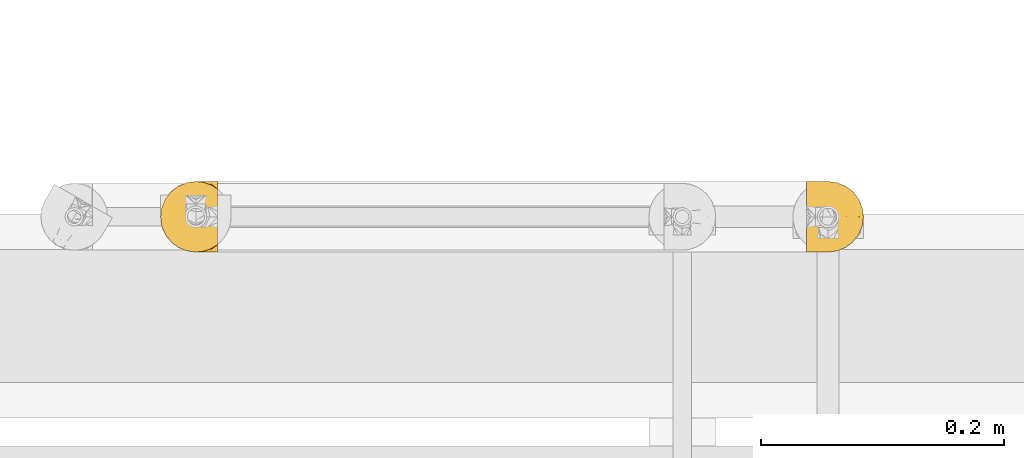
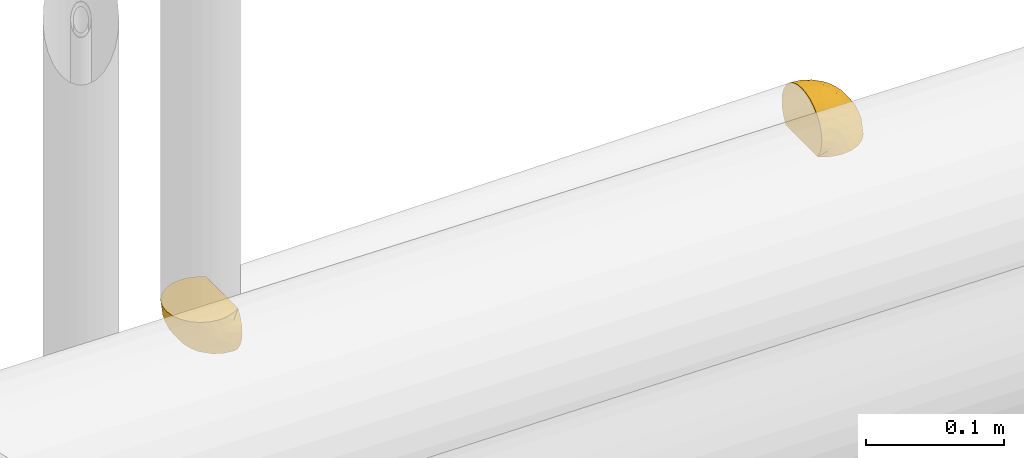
# One storey, part 15 of 78: 2 coverings.
"""IFC2X3 building model written with IfcOpenShell, lengths in millimetres."""

from ifc_helpers import new_model, entity, si_unit, converted_unit, derived_unit, direction, frame, origin_with_axes, place, context, subcontext, project, spatial, open_shell, surface_model, source, transform, mapped, element, save


model = new_model("IFC2X3")

# Units and contexts
model_context = context("Model", 3, precision=0.01, world=frame((0.0, 4.29681676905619e-09, 0.0)), true_north=direction((4.01073788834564e-13, 1.0)))
plan_context = context("Plan", 3, precision=0.01, world=frame((0.0, 4.29681676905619e-09, 0.0)), true_north=direction((4.01073788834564e-13, 1.0)))
body_context = subcontext(model_context, "Body", "Model", "MODEL_VIEW")
ifc_project = project(units=[converted_unit("PLANEANGLEUNIT", "DEGREE", entity("IfcPositiveLengthMeasure", 0.0174532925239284), si_unit("PLANEANGLEUNIT", "RADIAN"), dimensions=[0, 0, 0, 0, 0, 0, 0]), si_unit("AREAUNIT", "SQUARE_METRE"), si_unit("LENGTHUNIT", "METRE", prefix="MILLI"), si_unit("MASSUNIT", "GRAM", prefix="KILO"), si_unit("POWERUNIT", "WATT"), si_unit("PRESSUREUNIT", "PASCAL"), si_unit("FORCEUNIT", "NEWTON", prefix="KILO"), si_unit("ELECTRICVOLTAGEUNIT", "VOLT"), si_unit("ELECTRICCURRENTUNIT", "AMPERE"), si_unit("THERMODYNAMICTEMPERATUREUNIT", "DEGREE_CELSIUS"), si_unit("TIMEUNIT", "SECOND"), si_unit("VOLUMEUNIT", "CUBIC_METRE"), derived_unit("LINEARVELOCITYUNIT", [(si_unit("LENGTHUNIT", "METRE"), 1), (si_unit("TIMEUNIT", "SECOND"), -1)]), derived_unit("VOLUMETRICFLOWRATEUNIT", [(si_unit("VOLUMEUNIT", "CUBIC_METRE"), 1), (si_unit("TIMEUNIT", "SECOND"), -1)]), derived_unit("THERMALTRANSMITTANCEUNIT", [(si_unit("POWERUNIT", "WATT"), 1), (si_unit("THERMODYNAMICTEMPERATUREUNIT", "KELVIN"), -1), (si_unit("AREAUNIT", "SQUARE_METRE"), -1)]), derived_unit("SOUNDPRESSUREUNIT", [(si_unit("PRESSUREUNIT", "PASCAL"), 1)])], contexts=[model_context, plan_context])

# Site, building, storey
site_placement = place(None, frame((0.0, -4.29681676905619e-09, 0.0), z_axis=(0.0, 0.0, 1.0), x_axis=(1.0, 0.0, 0.0)))
site = spatial("IfcSite", under=ifc_project, at=site_placement, Name="ENGM", CompositionType="ELEMENT")
building_placement = place(site_placement, frame((0.0, 4.29681676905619e-09, 0.0), z_axis=(0.0, 0.0, 1.0), x_axis=(1.0, 0.0, 0.0)))
building = spatial("IfcBuilding", under=site, at=building_placement, Name="TH", CompositionType="ELEMENT")
storey_placement = place(building_placement, frame((0.0, 0.0, 205200.0), z_axis=(0.0, 0.0, 1.0), x_axis=(1.0, 0.0, 0.0)))
storey = spatial("IfcBuildingStorey", under=building, at=storey_placement, Name="Nivå D + 1,2 m", CompositionType="ELEMENT", Elevation=205200.0)

# Coverings
shared_shape_1 = source(origin_with_axes(), body_context, "Body", "SurfaceModel", [
    surface_model("IfcShellBasedSurfaceModel", [(12.5872, 18.0, 26.12589), (18.08563, 18.0, 22.66959), (22.67648, 18.0, 18.07698), (26.13012, 18.0, 12.57843), (28.27375, 18.0, 6.44942), (-17.77173, 18.0, -22.9165), (-12.3529, 18.0, -26.23749), (-6.33004, 18.0, -28.30072), (0.0, 18.0, -29.0), (6.44942, 18.0, -28.27375), (-18.0, 0.0, 29.0), (-18.0, -14.5, 25.11474), (-18.0, -7.50575, 28.01185), (-18.0, -25.11474, -14.5), (-18.0, -14.5, -25.11474), (-18.0, -20.5061, -20.5061), (-18.0, -7.50575, -28.01185), (-18.0, 0.0, -29.0), (-18.0, 17.77173, -22.9165), (-18.0, 17.77173, 22.9165), (-17.83859, 17.83859, 22.9165), (-17.83859, 17.83859, -22.9165), (-17.77173, 18.0, 22.9165), (-11.91423, 11.9123, -27.437), (-18.0, 6.32509, -28.30182), (-18.0, 12.34563, -26.24091), (-5.27208, 5.27208, -29.0), (-15.63786, 14.48961, -25.5229), (25.93601, 6.67854, -9.58205), (28.27217, 18.0, -6.45633), (27.02342, 8.06308, 0.0), (-11.58944, -10.38288, -26.79251), (26.12589, 18.0, -12.5872), (-8.72435, -16.42638, -23.00725), (-2.15074, -19.82057, -17.65408), (-10.78654, -22.36781, -17.65408), (-10.90925, -4.53647, -28.44912), (-4.56412, -7.81008, -26.79251), (1.42942, -22.15165, -11.53878), (4.08186, -22.64535, -6.52508), (-4.04847, -26.34204, -5.44064), (-18.0, -28.01185, -7.50575), (-6.34693, -25.25014, -11.09782), (12.57843, 18.0, -26.13012), (8.70204, 11.12014, -27.37401), (12.30526, -12.14334, -15.12435), (15.68692, -5.11925, -17.84797), (18.58838, -6.20359, -13.10629), (-1.45635, 14.48406, -29.0), (20.49628, -7.02537, -7.85654), (-14.48406, 1.45635, -29.0), (17.63513, 1.45693, -19.69333), (20.97621, 0.92546, -15.43347), (14.81555, 11.64794, -24.55768), (19.28448, 8.39344, -20.51001), (12.61582, 4.58807, -24.55768), (4.16849, 4.09476, -27.82577), (3.89702, -4.58536, -25.68841), (-2.23671, -1.20763, -28.17991), (18.07698, 18.0, -22.67648), (0.57021, -13.0879, -22.56817), (9.4476, -9.00088, -20.51001), (22.66959, 18.0, -18.08563), (23.77672, 9.91353, -15.43347), (25.42234, 0.01388, 0.0), (15.09054, -13.36351, -8.92567), (-8.45406, 3.95406, -29.0), (-6.64688, -2.8871, -28.41954), (-11.63604, 2.63604, -29.0), (-2.9127, 10.96811, -29.0), (15.23402, -15.23402, 0.0), (20.32818, -7.61007, 0.0), (8.70429, -18.28971, -10.43847), (11.53611, -17.98985, -5.04364), (5.36399, -15.33486, -18.03817), (-8.06308, -27.02342, 0.0), (8.1898, 0.02909, -25.52631), (12.51117, -2.09819, -22.30296), (-4.09239, 8.1201, -29.0), (29.0, 18.0, 0.0), (-0.01388, -25.42234, 0.0), (-18.0, -29.0, 0.0), (7.61007, -20.32818, 0.0), (-2.15312, -19.82156, 17.65408), (0.57215, -13.08608, 22.56863), (-8.72508, -16.42658, 23.00725), (-4.04847, -26.34203, 5.4407), (-10.78795, -22.36806, 17.65408), (-6.34785, -25.25039, 11.09782), (25.939, 6.67899, 9.57411), (-18.0, -25.11474, 14.5), (-18.0, -28.01185, 7.50575), (1.43206, -22.14749, 11.54476), (-11.58944, -10.38288, 26.79251), (20.50587, -7.01305, 7.85179), (20.98134, 0.92337, 15.42467), (4.16859, 4.08516, 27.82424), (8.70955, 11.11747, 27.37123), (-2.9127, 10.96811, 29.0), (6.45633, 18.0, 28.27217), (8.71076, -18.28571, 10.43687), (11.53628, -17.99007, 5.04207), (15.09914, -13.35631, 8.92169), (-18.0, -20.5061, 20.5061), (12.51139, -2.10414, 22.30009), (8.20363, 0.03075, 25.52066), (3.90743, -4.56802, 25.69113), (-2.23663, -1.20773, 28.17988), (-6.92531, -2.24067, 28.55295), (-4.56412, -7.81008, 26.79251), (15.69231, -5.11628, 17.84442), (9.45318, -9.00636, 20.50219), (12.31497, -12.1393, 15.11775), (23.78211, 9.91229, 15.42467), (19.29205, 8.39148, 20.50219), (14.82422, 11.64641, 24.55215), (12.62384, 4.58443, 24.55215), (17.64599, 1.45836, 19.68333), (-11.63604, 2.63604, 29.0), (-14.48406, 1.45635, 29.0), (-10.90925, -4.53647, 28.44912), (5.3697, -15.3417, 18.027), (-1.45635, 14.48406, 29.0), (4.08207, -22.64476, 6.52689), (-5.27208, 5.27208, 29.0), (-4.09239, 8.1201, 29.0), (-8.45406, 3.95406, 29.0), (18.10711, -6.95019, 13.06771), (0.0, 18.0, 29.0), (-11.91423, 11.9123, 27.437), (-18.0, 12.34563, 26.24091), (-18.0, 6.32509, 28.30182), (-10.60868, 7.01569, 28.60662), (-6.31725, 18.0, 28.30358), (-12.34105, 18.0, 26.24307)], [open_shell([[[0, 1, 2]], [[2, 3, 4]], [[2, 4, 5]], [[6, 5, 7]], [[8, 7, 5]], [[8, 5, 9]], [[10, 11, 12]], [[13, 14, 15]], [[16, 11, 17]], [[18, 19, 20]], [[21, 18, 20]], [[22, 5, 20]], [[21, 20, 5]], [[23, 24, 25]], [[17, 24, 26]], [[26, 24, 23]], [[23, 25, 27]], [[18, 21, 27]], [[21, 5, 6]], [[8, 26, 7]], [[6, 27, 21]], [[18, 27, 25]], [[6, 7, 23]], [[6, 23, 27]], [[26, 23, 7]], [[28, 29, 30]], [[14, 16, 31]], [[28, 32, 29]], [[33, 34, 35]], [[31, 36, 37]], [[38, 39, 40]], [[40, 41, 42]], [[43, 44, 9]], [[35, 13, 15]], [[15, 14, 33]], [[45, 46, 47]], [[13, 35, 42]], [[9, 48, 8]], [[28, 49, 47]], [[16, 17, 50]], [[51, 52, 46]], [[53, 54, 55]], [[56, 57, 58]], [[43, 53, 44]], [[53, 43, 59]], [[60, 57, 61]], [[54, 59, 62]], [[63, 54, 62]], [[49, 28, 64]], [[51, 54, 52]], [[45, 47, 65]], [[62, 32, 63]], [[34, 33, 60]], [[64, 28, 30]], [[52, 63, 28]], [[13, 42, 41]], [[66, 67, 68]], [[56, 69, 44]], [[44, 48, 9]], [[70, 49, 71]], [[56, 44, 55]], [[72, 73, 39]], [[31, 33, 14]], [[60, 61, 74]], [[38, 72, 39]], [[41, 40, 75]], [[45, 74, 61]], [[26, 56, 58]], [[57, 76, 77]], [[56, 26, 78]], [[29, 79, 30]], [[28, 63, 32]], [[54, 63, 52]], [[54, 53, 59]], [[44, 53, 55]], [[50, 36, 16]], [[33, 31, 37]], [[33, 37, 60]], [[57, 60, 37]], [[37, 36, 67]], [[77, 76, 55]], [[36, 50, 68]], [[58, 66, 26]], [[16, 36, 31]], [[58, 37, 67]], [[68, 67, 36]], [[37, 58, 57]], [[75, 40, 80]], [[75, 81, 41]], [[73, 70, 82]], [[82, 80, 39]], [[40, 39, 80]], [[65, 73, 72]], [[82, 39, 73]], [[38, 40, 42]], [[42, 34, 38]], [[74, 38, 34]], [[45, 65, 72]], [[65, 49, 70]], [[72, 38, 74]], [[46, 45, 61]], [[72, 74, 45]], [[60, 74, 34]], [[77, 46, 61]], [[47, 46, 52]], [[57, 77, 61]], [[51, 55, 54]], [[57, 56, 76]], [[56, 55, 76]], [[28, 47, 52]], [[47, 49, 65]], [[46, 77, 51]], [[55, 51, 77]], [[33, 35, 15]], [[42, 35, 34]], [[44, 69, 48]], [[49, 64, 71]], [[70, 73, 65]], [[78, 69, 56]], [[66, 58, 67]], [[83, 84, 85]], [[80, 86, 75]], [[87, 88, 83]], [[3, 89, 4]], [[90, 91, 88]], [[86, 92, 88]], [[12, 11, 93]], [[94, 89, 95]], [[96, 97, 98]], [[97, 0, 99]], [[100, 101, 102]], [[11, 103, 85]], [[104, 105, 106]], [[107, 108, 109]], [[103, 90, 87]], [[110, 111, 112]], [[95, 113, 114]], [[1, 114, 2]], [[103, 87, 85]], [[89, 3, 113]], [[89, 30, 4]], [[1, 0, 115]], [[116, 104, 117]], [[116, 97, 96]], [[97, 116, 115]], [[94, 64, 89]], [[104, 111, 110]], [[118, 119, 120]], [[112, 121, 100]], [[84, 106, 109]], [[12, 119, 10]], [[115, 114, 1]], [[70, 94, 102]], [[3, 2, 113]], [[99, 122, 97]], [[114, 113, 2]], [[94, 70, 71]], [[91, 75, 86]], [[86, 123, 92]], [[80, 82, 123]], [[100, 102, 112]], [[83, 121, 84]], [[93, 85, 109]], [[124, 96, 125]], [[107, 126, 108]], [[30, 89, 64]], [[30, 79, 4]], [[89, 113, 95]], [[97, 115, 0]], [[114, 115, 116]], [[85, 93, 11]], [[120, 12, 93]], [[106, 84, 111]], [[109, 85, 84]], [[106, 111, 104]], [[96, 124, 107]], [[107, 109, 106]], [[12, 120, 119]], [[109, 120, 93]], [[126, 107, 124]], [[120, 108, 118]], [[96, 107, 106]], [[91, 81, 75]], [[101, 123, 82]], [[91, 86, 88]], [[102, 101, 70]], [[70, 101, 82]], [[123, 101, 100]], [[123, 100, 92]], [[123, 86, 80]], [[121, 92, 100]], [[83, 88, 92]], [[96, 98, 125]], [[110, 127, 95]], [[102, 94, 127]], [[121, 112, 111]], [[127, 110, 112]], [[95, 114, 117]], [[117, 110, 95]], [[104, 116, 105]], [[116, 96, 105]], [[96, 106, 105]], [[84, 121, 111]], [[121, 83, 92]], [[102, 127, 112]], [[95, 127, 94]], [[116, 117, 114]], [[104, 110, 117]], [[88, 87, 90]], [[85, 87, 83]], [[122, 99, 128]], [[122, 98, 97]], [[71, 64, 94]], [[118, 108, 126]], [[109, 108, 120]], [[129, 130, 131]], [[19, 130, 20]], [[20, 130, 129]], [[129, 131, 132]], [[10, 124, 132]], [[124, 128, 133]], [[22, 20, 134]], [[133, 132, 124]], [[10, 132, 131]], [[133, 134, 129]], [[133, 129, 132]], [[20, 129, 134]], [[133, 128, 134]], [[5, 134, 128]], [[22, 134, 5]], [[0, 128, 99]], [[9, 5, 43]], [[18, 25, 24]], [[130, 10, 131]], [[16, 14, 13]], [[16, 13, 11]], [[81, 13, 41]], [[13, 91, 90]], [[32, 62, 59]], [[130, 19, 10]], [[0, 5, 128]], [[2, 5, 0]], [[79, 29, 32]], [[32, 5, 4]], [[5, 32, 59]], [[43, 5, 59]], [[32, 4, 79]], [[18, 24, 19]], [[11, 19, 24]], [[10, 19, 11]], [[17, 11, 24]], [[103, 11, 90]], [[90, 11, 13]], [[81, 91, 13]]])]),
])
covering_1_placement = place(storey_placement, frame((900010.50163, 483351.12926, 4460.0), z_axis=(0.0, -1.0, 0.0), x_axis=(0.0, 0.0, 1.0)))
element("IfcCovering", 1, at=covering_1_placement, inside=storey, Name="BI20T - Cellegummi 13 mm kalde rør", PredefinedType="INSULATION", context=body_context, shape_type="MappedRepresentation", body=[
    mapped(shared_shape_1, transform((0.0, 0.0, 0.0), scale=1.0)),
])
shared_shape_2 = source(origin_with_axes(), body_context, "Body", "SurfaceModel", [
    surface_model("IfcShellBasedSurfaceModel", [(12.5872, 18.0, 26.12589), (18.08563, 18.0, 22.66959), (22.67648, 18.0, 18.07698), (0.0, 18.0, 29.0), (6.45633, 18.0, 28.27217), (22.66959, 18.0, -18.08563), (28.27217, 18.0, -6.45633), (26.12589, 18.0, -12.5872), (-12.3529, 18.0, -26.23749), (-17.77173, 18.0, -22.9165), (-6.33004, 18.0, -28.30072), (0.0, 18.0, -29.0), (6.44942, 18.0, -28.27375), (28.27375, 18.0, 6.44942), (29.0, 18.0, 0.0), (-18.0, 6.32509, -28.30182), (-18.0, 0.0, -29.0), (-18.0, 12.34563, -26.24091), (-18.0, 12.34563, 26.24091), (-18.0, 17.77173, 22.9165), (-18.0, 6.32509, 28.30182), (-18.0, 0.0, 29.0), (-18.0, -14.5, 25.11474), (-18.0, -7.50575, 28.01185), (-18.0, -25.11474, -14.5), (-18.0, -14.5, -25.11474), (-18.0, -20.5061, -20.5061), (-18.0, 17.77173, -22.9165), (-17.83859, 17.83859, 22.9165), (-17.83859, 17.83859, -22.9165), (-17.77173, 18.0, 22.9165), (-11.91423, 11.9123, -27.437), (-5.27208, 5.27208, -29.0), (-15.63786, 14.48961, -25.5229), (25.93601, 6.67854, -9.58205), (27.02342, 8.06308, 0.0), (-18.0, -7.50575, -28.01185), (-11.58944, -10.38288, -26.79251), (-8.72435, -16.42638, -23.00725), (-2.15074, -19.82057, -17.65408), (-10.78654, -22.36781, -17.65408), (-10.90925, -4.53647, -28.44912), (-4.56412, -7.81008, -26.79251), (1.42942, -22.15165, -11.53878), (4.08186, -22.64535, -6.52508), (-4.04847, -26.34204, -5.44064), (-18.0, -28.01185, -7.50575), (-6.34693, -25.25014, -11.09782), (12.57843, 18.0, -26.13012), (8.70204, 11.12014, -27.37401), (12.30526, -12.14334, -15.12435), (15.68692, -5.11925, -17.84797), (18.58838, -6.20359, -13.10629), (-1.45635, 14.48406, -29.0), (20.49628, -7.02537, -7.85654), (-14.48406, 1.45635, -29.0), (17.63513, 1.45693, -19.69333), (20.97621, 0.92546, -15.43347), (14.81555, 11.64794, -24.55768), (19.28448, 8.39344, -20.51001), (12.61582, 4.58807, -24.55768), (4.16849, 4.09476, -27.82577), (3.89702, -4.58536, -25.68841), (-2.23671, -1.20763, -28.17991), (18.07698, 18.0, -22.67648), (0.57021, -13.0879, -22.56817), (9.4476, -9.00088, -20.51001), (23.77672, 9.91353, -15.43347), (25.42234, 0.01388, 0.0), (15.09054, -13.36351, -8.92567), (-8.45406, 3.95406, -29.0), (-6.64688, -2.8871, -28.41954), (-11.63604, 2.63604, -29.0), (-2.9127, 10.96811, -29.0), (15.23402, -15.23402, 0.0), (20.32818, -7.61007, 0.0), (8.70429, -18.28971, -10.43847), (11.53611, -17.98985, -5.04364), (5.36399, -15.33486, -18.03817), (-8.06308, -27.02342, 0.0), (8.1898, 0.02909, -25.52631), (12.51117, -2.09819, -22.30296), (-4.09239, 8.1201, -29.0), (-0.01388, -25.42234, 0.0), (-18.0, -29.0, 0.0), (7.61007, -20.32818, 0.0), (-2.15312, -19.82156, 17.65408), (0.57215, -13.08608, 22.56863), (-8.72508, -16.42658, 23.00725), (-4.04847, -26.34203, 5.4407), (-10.78795, -22.36806, 17.65408), (-6.34785, -25.25039, 11.09782), (26.13012, 18.0, 12.57843), (25.939, 6.67899, 9.57411), (-18.0, -25.11474, 14.5), (-18.0, -28.01185, 7.50575), (1.43206, -22.14749, 11.54476), (-11.58944, -10.38288, 26.79251), (20.50587, -7.01305, 7.85179), (20.98134, 0.92337, 15.42467), (4.16859, 4.08516, 27.82424), (8.70955, 11.11747, 27.37123), (-2.9127, 10.96811, 29.0), (8.71076, -18.28571, 10.43687), (11.53628, -17.99007, 5.04207), (15.09914, -13.35631, 8.92169), (-18.0, -20.5061, 20.5061), (12.51139, -2.10414, 22.30009), (8.20363, 0.03075, 25.52066), (3.90743, -4.56802, 25.69113), (-2.23663, -1.20773, 28.17988), (-6.92531, -2.24067, 28.55295), (-4.56412, -7.81008, 26.79251), (15.69231, -5.11628, 17.84442), (9.45318, -9.00636, 20.50219), (12.31497, -12.1393, 15.11775), (23.78211, 9.91229, 15.42467), (19.29205, 8.39148, 20.50219), (14.82422, 11.64641, 24.55215), (12.62384, 4.58443, 24.55215), (17.64599, 1.45836, 19.68333), (-11.63604, 2.63604, 29.0), (-14.48406, 1.45635, 29.0), (-10.90925, -4.53647, 28.44912), (5.3697, -15.3417, 18.027), (-1.45635, 14.48406, 29.0), (4.08207, -22.64476, 6.52689), (-5.27208, 5.27208, 29.0), (-4.09239, 8.1201, 29.0), (-8.45406, 3.95406, 29.0), (18.10711, -6.95019, 13.06771), (-11.91423, 11.9123, 27.437), (-10.60868, 7.01569, 28.60662), (-6.31725, 18.0, 28.30358), (-12.34105, 18.0, 26.24307)], [open_shell([[[0, 1, 2]], [[3, 4, 0]], [[5, 6, 7]], [[8, 9, 10]], [[11, 10, 9]], [[11, 9, 12]], [[6, 13, 14]], [[15, 16, 17]], [[18, 19, 20]], [[21, 22, 23]], [[24, 25, 26]], [[27, 19, 28]], [[29, 27, 28]], [[30, 9, 28]], [[29, 28, 9]], [[31, 15, 17]], [[16, 15, 32]], [[32, 15, 31]], [[31, 17, 33]], [[27, 29, 33]], [[29, 9, 8]], [[11, 32, 10]], [[8, 33, 29]], [[27, 33, 17]], [[8, 10, 31]], [[8, 31, 33]], [[32, 31, 10]], [[34, 6, 35]], [[25, 36, 37]], [[34, 7, 6]], [[38, 39, 40]], [[37, 41, 42]], [[43, 44, 45]], [[45, 46, 47]], [[48, 49, 12]], [[40, 24, 26]], [[26, 25, 38]], [[50, 51, 52]], [[24, 40, 47]], [[12, 53, 11]], [[34, 54, 52]], [[36, 16, 55]], [[56, 57, 51]], [[58, 59, 60]], [[61, 62, 63]], [[48, 58, 49]], [[58, 48, 64]], [[65, 62, 66]], [[59, 64, 5]], [[67, 59, 5]], [[54, 34, 68]], [[56, 59, 57]], [[50, 52, 69]], [[5, 7, 67]], [[39, 38, 65]], [[68, 34, 35]], [[57, 67, 34]], [[24, 47, 46]], [[70, 71, 72]], [[61, 73, 49]], [[49, 53, 12]], [[74, 54, 75]], [[61, 49, 60]], [[76, 77, 44]], [[37, 38, 25]], [[65, 66, 78]], [[43, 76, 44]], [[46, 45, 79]], [[50, 78, 66]], [[32, 61, 63]], [[62, 80, 81]], [[61, 32, 82]], [[6, 14, 35]], [[34, 67, 7]], [[59, 67, 57]], [[59, 58, 64]], [[49, 58, 60]], [[55, 41, 36]], [[38, 37, 42]], [[38, 42, 65]], [[62, 65, 42]], [[42, 41, 71]], [[81, 80, 60]], [[41, 55, 72]], [[63, 70, 32]], [[36, 41, 37]], [[63, 42, 71]], [[72, 71, 41]], [[42, 63, 62]], [[79, 45, 83]], [[79, 84, 46]], [[77, 74, 85]], [[85, 83, 44]], [[45, 44, 83]], [[69, 77, 76]], [[85, 44, 77]], [[43, 45, 47]], [[47, 39, 43]], [[78, 43, 39]], [[50, 69, 76]], [[69, 54, 74]], [[76, 43, 78]], [[51, 50, 66]], [[76, 78, 50]], [[65, 78, 39]], [[81, 51, 66]], [[52, 51, 57]], [[62, 81, 66]], [[56, 60, 59]], [[62, 61, 80]], [[61, 60, 80]], [[34, 52, 57]], [[52, 54, 69]], [[51, 81, 56]], [[60, 56, 81]], [[38, 40, 26]], [[47, 40, 39]], [[49, 73, 53]], [[54, 68, 75]], [[74, 77, 69]], [[82, 73, 61]], [[70, 63, 71]], [[86, 87, 88]], [[83, 89, 79]], [[90, 91, 86]], [[92, 93, 13]], [[94, 95, 91]], [[89, 96, 91]], [[23, 22, 97]], [[98, 93, 99]], [[100, 101, 102]], [[101, 0, 4]], [[103, 104, 105]], [[22, 106, 88]], [[107, 108, 109]], [[110, 111, 112]], [[106, 94, 90]], [[113, 114, 115]], [[99, 116, 117]], [[1, 117, 2]], [[106, 90, 88]], [[93, 92, 116]], [[93, 35, 13]], [[1, 0, 118]], [[119, 107, 120]], [[119, 101, 100]], [[101, 119, 118]], [[98, 68, 93]], [[107, 114, 113]], [[121, 122, 123]], [[115, 124, 103]], [[87, 109, 112]], [[23, 122, 21]], [[118, 117, 1]], [[74, 98, 105]], [[92, 2, 116]], [[4, 125, 101]], [[117, 116, 2]], [[98, 74, 75]], [[95, 79, 89]], [[89, 126, 96]], [[83, 85, 126]], [[103, 105, 115]], [[86, 124, 87]], [[97, 88, 112]], [[127, 100, 128]], [[110, 129, 111]], [[35, 93, 68]], [[35, 14, 13]], [[93, 116, 99]], [[101, 118, 0]], [[117, 118, 119]], [[88, 97, 22]], [[123, 23, 97]], [[109, 87, 114]], [[112, 88, 87]], [[109, 114, 107]], [[100, 127, 110]], [[110, 112, 109]], [[23, 123, 122]], [[112, 123, 97]], [[129, 110, 127]], [[123, 111, 121]], [[100, 110, 109]], [[95, 84, 79]], [[104, 126, 85]], [[95, 89, 91]], [[105, 104, 74]], [[74, 104, 85]], [[126, 104, 103]], [[126, 103, 96]], [[126, 89, 83]], [[124, 96, 103]], [[86, 91, 96]], [[100, 102, 128]], [[113, 130, 99]], [[105, 98, 130]], [[124, 115, 114]], [[130, 113, 115]], [[99, 117, 120]], [[120, 113, 99]], [[107, 119, 108]], [[119, 100, 108]], [[100, 109, 108]], [[87, 124, 114]], [[124, 86, 96]], [[105, 130, 115]], [[99, 130, 98]], [[119, 120, 117]], [[107, 113, 120]], [[91, 90, 94]], [[88, 90, 86]], [[125, 4, 3]], [[125, 102, 101]], [[75, 68, 98]], [[121, 111, 129]], [[112, 111, 123]], [[131, 18, 20]], [[19, 18, 28]], [[28, 18, 131]], [[131, 20, 132]], [[21, 127, 132]], [[127, 3, 133]], [[30, 28, 134]], [[133, 132, 127]], [[21, 132, 20]], [[133, 134, 131]], [[133, 131, 132]], [[28, 131, 134]], [[92, 0, 2]], [[64, 48, 5]], [[12, 9, 48]], [[84, 24, 46]], [[94, 106, 24]], [[0, 92, 3]], [[92, 13, 6]], [[92, 6, 9]], [[48, 9, 6]], [[27, 17, 16]], [[92, 9, 133]], [[3, 92, 133]], [[30, 134, 133]], [[133, 9, 30]], [[6, 5, 48]], [[19, 27, 24]], [[19, 106, 20]], [[20, 22, 21]], [[27, 16, 25]], [[25, 24, 27]], [[24, 106, 19]], [[20, 106, 22]], [[94, 84, 95]], [[84, 94, 24]], [[25, 16, 36]]])]),
])
covering_2_placement = place(storey_placement, frame((899490.50163, 483351.12956, 4460.0), z_axis=(0.0, -1.0, 0.0), x_axis=(0.0, 0.0, -1.0)))
element("IfcCovering", 2, at=covering_2_placement, inside=storey, Name="BI20T - Cellegummi 13 mm kalde rør", PredefinedType="INSULATION", context=body_context, shape_type="MappedRepresentation", body=[
    mapped(shared_shape_2, transform((0.0, 0.0, 0.0), scale=1.0)),
])

save(model, "model.ifc")
